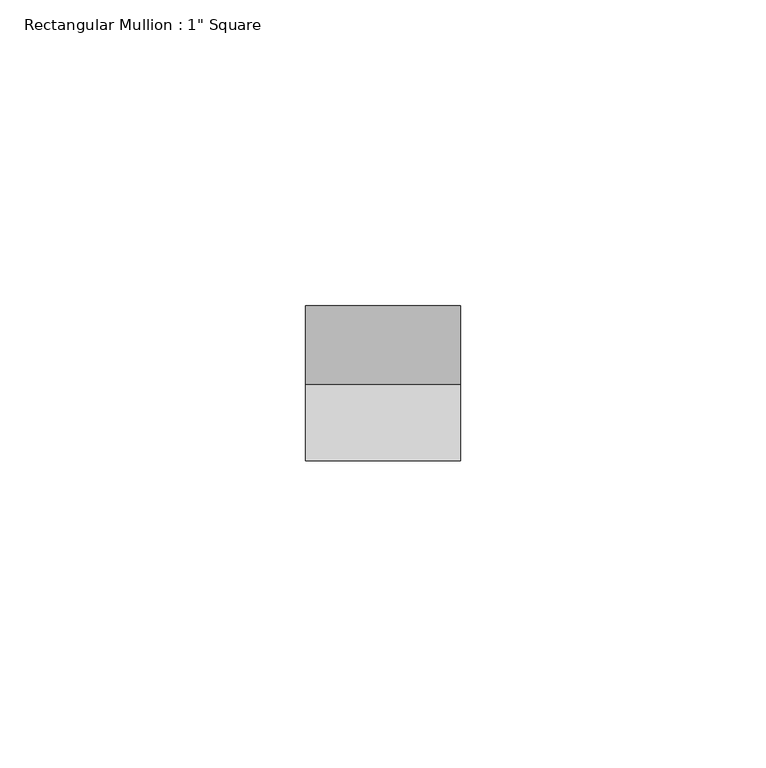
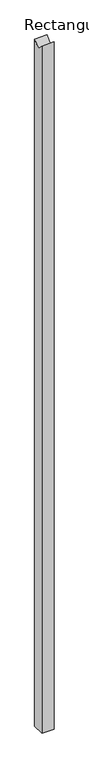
"""IFC4 building model written with IfcOpenShell, lengths in millimetres: member geometry."""

from ifc_helpers import new_model, si_unit, frame, origin, place, context, project, spatial, polyline, outline, extrude, source, transform, mapped, element, save


def member_88d46f17(model_context):
    return source(origin(), model_context, "Body", "SweptSolid", [
        extrude(outline(polyline([(-12.7, 7.5060081), (-0.160889, -5.2597916), (12.7, 7.3727202), (12.7, -1485.9), (-12.7, -1485.9), (-12.7, 7.5060081)])), frame((-25.4, 0.0, 0.0), z_axis=(1.0, 0.0, 0.0), x_axis=(0.0, 1.0, 0.0)), (0.0, 0.0, 1.0), 25.4),
    ])


if __name__ == "__main__":
    model = new_model("IFC4")
    model_context = context("Model", 3, world=origin())
    ifc_project = project(units=[si_unit("LENGTHUNIT", "METRE", prefix="MILLI")], contexts=[model_context])
    site = spatial("IfcSite", under=ifc_project)
    building = spatial("IfcBuilding", under=site)
    placement = place(None, origin())
    member_shape = member_88d46f17(model_context)
    element("IfcMember", 1, ObjectType="Rectangular Mullion : 1\" Square", at=placement, inside=building, context=model_context, shape_type="MappedRepresentation", body=[
        mapped(member_shape, transform((0.0, 0.0, 0.0), x_axis=(1.0, 0.0, 0.0), y_axis=(0.0, 1.0, 0.0), z_axis=(0.0, 0.0, 1.0))),
    ])
    save(model, "model.ifc")
